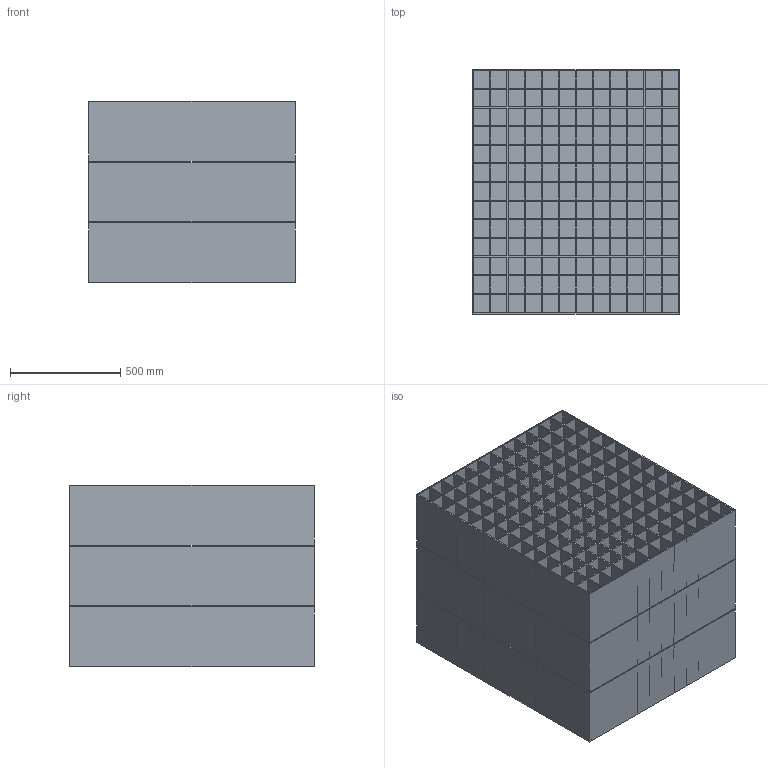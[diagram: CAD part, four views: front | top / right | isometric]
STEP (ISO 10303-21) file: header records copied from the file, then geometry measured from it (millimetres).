
FILE_DESCRIPTION(('CATIA V5 STEP Exchange'),'2;1');
FILE_NAME('F:\沈文标工作\20240125.stp','2024-01-25T02:38:08+00:00',('none'),('none'),'CATIA Version 5 Release 20 GA (IN-10)','CATIA V5 STEP AP214','none');
FILE_SCHEMA(('AUTOMOTIVE_DESIGN { 1 0 10303 214 1 1 1 1 }'));
Length unit declared in the file: millimetre
Products named in the file (1): Part12
Bounding box: 935 x 1106 x 820 mm (x, y, z)
Volume: 124756575 mm3; surface area: 49720440 mm2
Topology: 6 solids, 6 shells, 1911 faces, 5688 edges, 3792 vertices
Faces by surface type: plane 1911
Entity records: 55019 total; most frequent: ORIENTED_EDGE 11376, CARTESIAN_POINT 9554, DIRECTION 5834, VECTOR 5688, EDGE_CURVE 5688, LINE 5688, VERTEX_POINT 3792, EDGE_LOOP 2634
